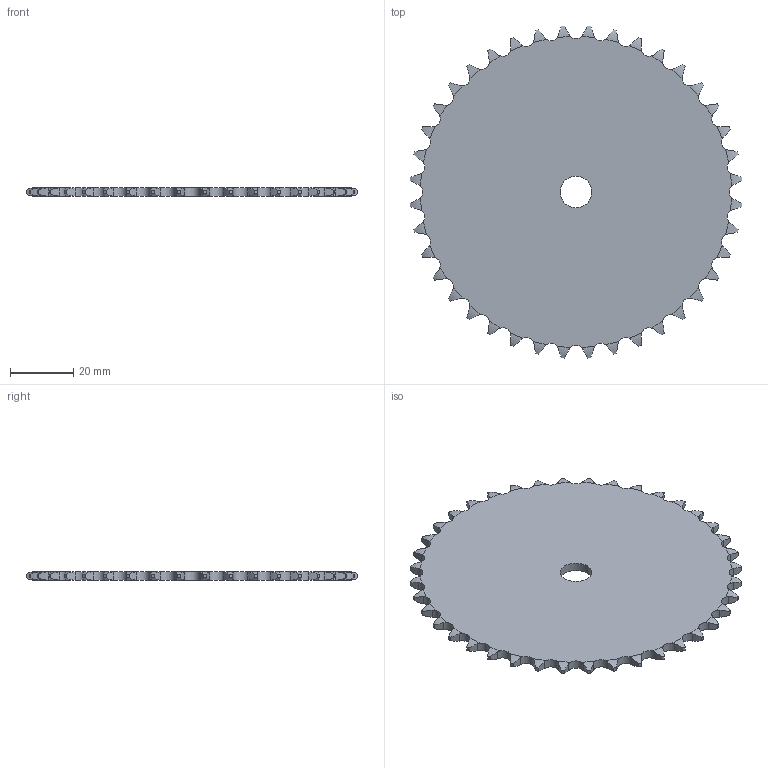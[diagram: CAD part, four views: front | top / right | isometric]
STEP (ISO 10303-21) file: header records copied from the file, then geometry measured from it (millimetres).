
FILE_DESCRIPTION((''),'2;1');
FILE_NAME('500-081-0040_PRT','2021-02-12T',('Brieden'),('Brieden'),'PRO/ENGINEER BY PARAMETRIC TECHNOLOGY CORPORATION, 2010160','PRO/ENGINEER BY PARAMETRIC TECHNOLOGY CORPORATION, 2010160','');
FILE_SCHEMA(('AUTOMOTIVE_DESIGN { 1 0 10303 214 1 1 1 1 }'));
Length unit declared in the file: millimetre
Products named in the file (1): 500-081-0040_PRT
Bounding box: 104.94 x 104.94 x 2.8 mm (x, y, z)
Volume: 21701.9 mm3; surface area: 16875 mm2
Topology: 1 solids, 1 shells, 244 faces, 726 edges, 484 vertices
Faces by surface type: cylinder 162, torus 80, plane 2
Entity records: 11350 total; most frequent: CARTESIAN_POINT 2941, ORIENTED_EDGE 1452, DIRECTION 1138, PRESENTATION_STYLE_ASSIGNMENT 727, STYLED_ITEM 727, CURVE_STYLE 726, EDGE_CURVE 726, AXIS2_PLACEMENT_3D 488
